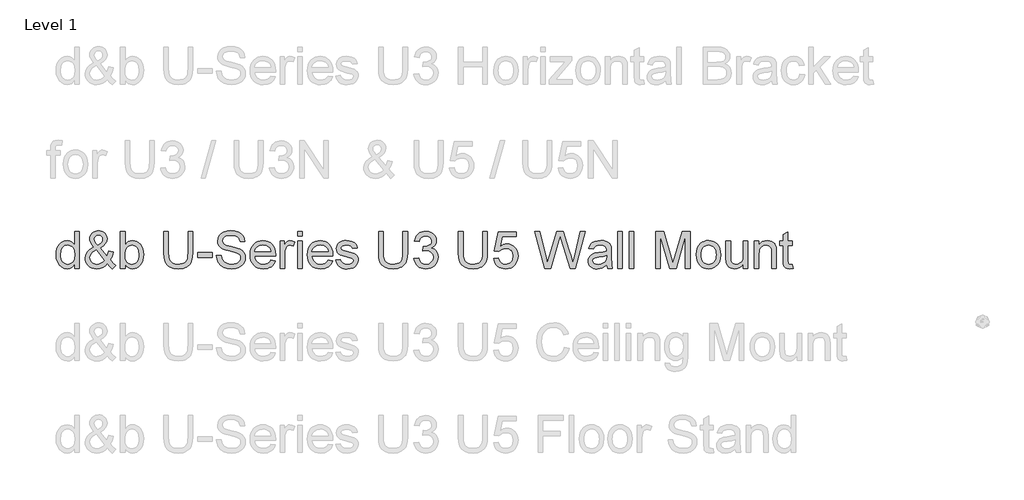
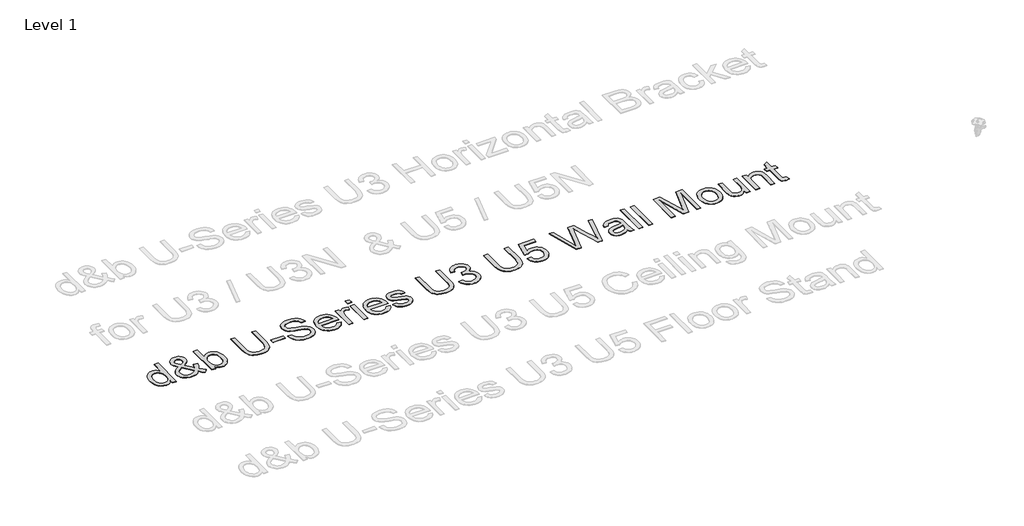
# One storey, part 12 of 29: 1 proxy.
"""IFC4 building model written with IfcOpenShell, lengths in millimetres."""

from ifc_helpers import new_model, si_unit, origin, origin_with_axes, place, context, project, spatial, polyline, outline, extrude, element, save

model = new_model("IFC4")

# Units and contexts
model_context = context("Model", 3, world=origin())
ifc_project = project(units=[si_unit("LENGTHUNIT", "METRE", prefix="MILLI")], contexts=[model_context])

# Site, building, storey
site = spatial("IfcSite", under=ifc_project)
building = spatial("IfcBuilding", under=site)
storey = spatial("IfcBuildingStorey", under=building, Name="Level 1", Elevation=0.0)

# Proxy
placement = place(None, origin())
element("IfcBuildingElementProxy", 1, Name="400mm Arial", ObjectType="400mm Arial", at=placement, inside=storey, context=model_context, shape_type="SweptSolid", body=[
    extrude(outline(polyline([(-20788.4119982, 164.3636615), (-20788.4119982, 211.7468625), (-20803.4399777, 188.2698598), (-20821.6440051, 171.5005722), (-20843.0240804, 161.4389996), (-20867.5802036, 158.0851421), (-20900.051921, 162.9411844), (-20929.7767862, 177.5093115), (-20954.9399147, 200.7717163), (-20973.7264219, 231.7105921), (-20985.4250694, 269.0751401), (-20989.3246185, 311.6145614), (-20985.7316377, 353.6266853), (-20974.9526952, 391.5675817), (-20957.0000539, 423.2790097), (-20931.8859763, 446.6027282), (-20901.5111863, 460.950126), (-20867.7764073, 465.7325919), (-20843.20189, 462.3112894), (-20821.4723268, 452.0473817), (-20803.0537016, 436.3142951), (-20788.4119982, 416.4854555), (-20788.4119982, 566.1889021), (-20738.1838431, 566.1889021), (-20738.1838431, 164.3636615), (-20788.4119982, 164.3636615)]), holes=[polyline([(-20939.0964634, 311.8107652), (-20937.6801177, 287.4539114), (-20933.4310807, 266.3773388), (-20926.3493523, 248.5810472), (-20916.4349325, 234.0650368), (-20891.7377879, 214.7512321), (-20877.8625053, 209.9227809), (-20862.9694159, 208.3132972), (-20848.0058157, 209.8492045), (-20834.2133066, 214.4569265), (-20810.1415614, 232.8878145), (-20800.6348775, 246.7968196), (-20793.844389, 263.9493176), (-20788.4119982, 307.9847924), (-20793.9424909, 356.1282828), (-20800.8556067, 374.663404), (-20810.5339688, 389.5074425), (-20822.235682, 400.8811276), (-20835.2188507, 409.0051883), (-20849.4834751, 413.8796247), (-20865.0295551, 415.5044369), (-20880.2169501, 413.9440041), (-20894.0922327, 409.2627057), (-20906.6554028, 401.4605417), (-20917.9064605, 390.5375121), (-20927.1770868, 376.2544937), (-20933.7989627, 358.372363), (-20939.0964634, 311.8107652)])]), origin_with_axes(), (0.0, 0.0, 1.0), 5.0),
    extrude(outline(polyline([(-20432.4003287, 214.0032054), (-20457.9313392, 189.5390527), (-20485.6696416, 172.0646579), (-20515.664287, 161.5800211), (-20547.9643262, 158.0851421), (-20577.2722584, 160.6725788), (-20603.3918801, 168.4348889), (-20626.3231911, 181.3720724), (-20646.0661915, 199.4841293), (-20658.8991418, 216.8542908), (-20668.0655348, 235.2177338), (-20673.5653707, 254.5744581), (-20675.3986493, 274.9244638), (-20669.5002746, 310.118508), (-20651.8051507, 341.7318341), (-20622.3868538, 369.7399167), (-20581.3189604, 394.1182302), (-20603.2324646, 422.4696693), (-20616.3903773, 444.9349965), (-20622.975465, 464.1139112), (-20625.1704942, 482.6061128), (-20623.4414488, 500.1602153), (-20618.2543127, 516.5248327), (-20609.6090858, 531.699965), (-20597.5057682, 545.6856122), (-20582.784357, 557.4026538), (-20566.2848495, 565.7719692), (-20548.0072457, 570.7935584), (-20527.9515456, 572.4674215), (-20508.8032878, 570.8671348), (-20491.4821772, 566.0662748), (-20475.9882138, 558.0648414), (-20462.3213977, 546.8628346), (-20451.1623105, 533.4167477), (-20443.1915339, 518.6830738), (-20438.409068, 502.6618129), (-20436.8149127, 485.352965), (-20441.5360649, 457.3694079), (-20455.6995218, 431.4950409), (-20479.3052831, 407.729864), (-20512.353349, 386.0738773), (-20439.6598668, 295.5258555), (-20427.2745063, 321.4002225), (-20417.9793545, 351.1496132), (-20367.7511994, 340.2603061), (-20383.2022432, 293.7354965), (-20403.2640747, 257.5604336), (-20374.7164319, 224.2548503), (-20342.6371219, 196.7372771), (-20380.3082382, 158.0851421), (-20405.9373505, 181.5314879), (-20432.4003287, 214.0032054)]), holes=[polyline([(-20537.7617322, 417.7607798), (-20511.4949577, 434.4258341), (-20496.4608468, 448.908122), (-20489.3975125, 462.9980024), (-20487.0430678, 478.4858344), (-20490.1455392, 496.0338056), (-20499.4529537, 510.0255842), (-20513.4202068, 519.1858458), (-20530.5021941, 522.2392664), (-20547.9520634, 519.2103713), (-20562.2381476, 510.123686), (-20571.7662912, 496.6714677), (-20574.9423391, 480.5459736), (-20570.6258571, 462.1518739), (-20557.578309, 441.6976349), (-20537.7617322, 417.7607798)]), polyline([(-20466.0492686, 250.2027937), (-20555.7143735, 362.1370221), (-20589.9641873, 340.2848316), (-20610.8966728, 320.0513218), (-20621.6020389, 300.7252544), (-20625.1704942, 281.5953906), (-20620.2899264, 257.9037901), (-20605.648223, 233.3292729), (-20594.8692805, 222.3847835), (-20582.0547244, 214.5672911), (-20567.2045545, 209.8767957), (-20550.3187709, 208.3132972), (-20527.5959264, 211.2318277), (-20504.1618433, 219.9874192), (-20482.7388484, 233.3783238), (-20466.0492686, 250.2027937)])]), origin_with_axes(), (0.0, 0.0, 1.0), 5.0),
    extrude(outline(polyline([(-20242.1808118, 164.3636615), (-20292.4089668, 164.3636615), (-20292.4089668, 566.1889021), (-20242.1808118, 566.1889021), (-20242.1808118, 417.1721686), (-20225.6629102, 438.4173538), (-20207.011293, 453.5924861), (-20186.2259603, 462.6975655), (-20163.306912, 465.7325919), (-20137.432545, 462.9980024), (-20112.9806551, 454.7942339), (-20091.3491937, 441.6363213), (-20073.9361126, 424.0392992), (-20060.2876906, 402.1748459), (-20049.9502065, 376.2146398), (-20043.4386952, 347.2378013), (-20041.2681915, 316.323451), (-20043.5153373, 280.6511602), (-20050.2567749, 249.270826), (-20061.4925041, 222.1824484), (-20077.2225251, 199.3860274), (-20096.1040685, 181.3168901), (-20116.7943651, 168.4103634), (-20139.2934148, 160.6664474), (-20163.6012176, 158.0851421), (-20187.274424, 161.4144742), (-20208.2620918, 171.4024703), (-20226.5642211, 188.0491306), (-20242.1808118, 211.354455), (-20242.1808118, 164.3636615)]), holes=[polyline([(-20242.1808118, 313.9690062), (-20238.7472465, 272.0795097), (-20228.4465506, 243.7280706), (-20216.2757879, 228.2341072), (-20202.1307252, 217.1669905), (-20186.0113625, 210.5267205), (-20167.9176997, 208.3132972), (-20152.8958515, 209.9442407), (-20138.9285984, 214.8370712), (-20126.0159404, 222.9917888), (-20114.1578774, 234.4083934), (-20104.2434577, 249.0562281), (-20097.1617293, 266.9046363), (-20092.9126922, 287.9536178), (-20091.4963465, 312.2031726), (-20096.9287373, 358.1638965), (-20103.7192258, 375.9571224), (-20113.2259097, 390.2922575), (-20124.6578427, 401.322586), (-20137.2240785, 409.201392), (-20150.9246172, 413.9286757), (-20165.7594586, 415.5044369), (-20180.7813068, 413.8734934), (-20194.7485599, 408.9806628), (-20207.6612179, 400.8259453), (-20219.5192809, 389.4093407), (-20229.4337006, 374.9086587), (-20236.515429, 357.501709), (-20240.7644661, 337.1884915), (-20242.1808118, 313.9690062)])]), origin_with_axes(), (0.0, 0.0, 1.0), 5.0),
    extrude(outline(polyline([(-19557.8221989, 566.1889021), (-19507.5940438, 566.1889021), (-19507.5940438, 334.3741942), (-19511.0030836, 280.0870744), (-19521.2302031, 238.2834171), (-19529.4155775, 221.3301884), (-19540.3355414, 206.0324288), (-19570.3792376, 180.4033165), (-19589.5213641, 170.6391152), (-19611.4348683, 163.6646857), (-19663.5760097, 158.0851421), (-19714.576717, 162.9411844), (-19755.3503048, 177.5093115), (-19771.9049946, 188.3097137), (-19785.9090359, 201.2867511), (-19797.3624287, 216.4404236), (-19806.2651729, 233.7707312), (-19817.706303, 277.3402222), (-19821.520013, 334.3741942), (-19821.520013, 566.1889021), (-19771.2918579, 566.1889021), (-19771.2918579, 336.1400278), (-19768.8147858, 291.000907), (-19761.3835695, 259.5715218), (-19747.9190885, 237.8051705), (-19727.3422222, 221.6551509), (-19700.5113621, 211.6487606), (-19668.2848993, 208.3132972), (-19640.6017791, 209.9626348), (-19617.1983529, 214.9106476), (-19598.0746205, 223.1573357), (-19583.230582, 234.702699), (-19572.1144144, 250.9385577), (-19564.1742947, 273.2567321), (-19559.4102228, 301.6572221), (-19557.8221989, 336.1400278), (-19557.8221989, 566.1889021)])), origin_with_axes(), (0.0, 0.0, 1.0), 5.0),
    extrude(outline(polyline([(-19451.0873693, 283.6555298), (-19451.0873693, 333.8836849), (-19294.1243847, 333.8836849), (-19294.1243847, 283.6555298), (-19451.0873693, 283.6555298)])), origin_with_axes(), (0.0, 0.0, 1.0), 5.0),
    extrude(outline(polyline([(-19250.174749, 302.4910879), (-19199.946594, 302.4910879), (-19194.1831094, 274.6178954), (-19183.7597862, 252.2138819), (-19167.499402, 234.4329188), (-19144.2247344, 220.4288776), (-19115.7751935, 211.3421923), (-19083.9901891, 208.3132972), (-19056.006632, 210.6064283), (-19031.5056911, 217.4858216), (-19011.6523261, 228.3751287), (-18997.6114966, 242.698001), (-18989.2605753, 259.1423262), (-18986.4769349, 276.3959918), (-18988.5615995, 293.2081989), (-18994.8155934, 307.7395377), (-19007.519785, 320.137161), (-19028.9550426, 330.5482214), (-19102.0899832, 349.7271361), (-19150.0985836, 362.419065), (-19180.8167302, 374.4978571), (-19205.8204431, 391.3959034), (-19223.5400926, 411.8746678), (-19234.0983058, 435.4926919), (-19237.6177103, 461.8085173), (-19233.26444, 491.2268142), (-19220.2046292, 518.6585483), (-19198.7816343, 541.9086904), (-19169.338812, 558.7822113), (-19133.997615, 569.0461189), (-19094.8794961, 572.4674215), (-19052.4994903, 568.8867034), (-19015.4169852, 558.1445491), (-18984.956356, 540.4616879), (-18962.4419779, 516.0588489), (-18948.1926819, 486.456611), (-18942.5272992, 453.1755532), (-18992.7554543, 453.1755532), (-19001.9770296, 483.145673), (-19010.3402136, 495.003736), (-19021.2049952, 504.7771344), (-19051.2486915, 517.8737334), (-19092.9174588, 522.2392664), (-19135.5672448, 517.9227843), (-19151.8705486, 512.5271817), (-19164.8261262, 504.9733381), (-19181.7486979, 485.9170507), (-19187.3895552, 463.2800453), (-19183.3919042, 443.9785033), (-19171.3989511, 428.4538831), (-19143.047512, 414.5724691), (-19089.3857917, 400.3967496), (-19034.0072887, 386.9322686), (-19000.5055016, 375.1845702), (-18971.8720197, 356.9621487), (-18951.8960273, 334.4722961), (-18940.1605917, 307.9602669), (-18936.2487798, 277.671316), (-18940.7492029, 246.7079147), (-18954.2504721, 217.5839235), (-18976.2007645, 192.5188969), (-19006.048257, 173.7323896), (-19041.941277, 161.996954), (-19082.0281518, 158.0851421), (-19131.2385, 162.3035223), (-19171.7423077, 174.958663), (-19204.0055586, 196.0996149), (-19228.4942368, 225.7754292), (-19244.2150607, 261.9259666), (-19250.174749, 302.4910879)])), origin_with_axes(), (0.0, 0.0, 1.0), 5.0),
    extrude(outline(polyline([(-18660.5825381, 252.2629329), (-18611.3354017, 245.9844135), (-18618.8861796, 226.2598072), (-18629.0795766, 208.8773829), (-18641.9155925, 193.8371407), (-18657.3942275, 181.1390805), (-18675.3560659, 171.0529824), (-18695.6416922, 163.8486267), (-18743.1843087, 158.0851421), (-18774.3500451, 160.5714113), (-18802.1190044, 168.0302187), (-18826.4911866, 180.4615645), (-18847.4665916, 197.8654485), (-18864.3339811, 219.7574929), (-18876.3821165, 245.6533197), (-18883.6109977, 275.5529288), (-18886.0206247, 309.4563204), (-18883.5864722, 344.5093432), (-18876.2840146, 375.4052994), (-18864.1132519, 402.1441891), (-18847.0741842, 424.7260122), (-18826.1539614, 442.6663908), (-18802.3397336, 455.480947), (-18775.6315007, 463.1696807), (-18746.0292628, 465.7325919), (-18717.3804525, 463.1758121), (-18691.472363, 455.5054725), (-18668.3049943, 442.7215731), (-18647.8783465, 424.8241141), (-18631.2040951, 402.2913419), (-18619.2939155, 375.6015031), (-18612.1478077, 344.7545978), (-18609.7657718, 309.750626), (-18610.0600774, 296.2125686), (-18835.7924697, 296.2125686), (-18832.8831362, 276.1691312), (-18827.0981918, 258.6150287), (-18818.4376365, 243.550261), (-18806.9014703, 230.9748281), (-18793.1273553, 221.0604083), (-18777.7529536, 213.9786799), (-18742.2032901, 208.3132972), (-18715.4705318, 210.9375221), (-18692.9561537, 218.8101968), (-18674.6601558, 232.4218306), (-18660.5825381, 252.2629329)]), holes=[polyline([(-18835.7924697, 346.4407236), (-18659.9939269, 346.4407236), (-18666.7874811, 372.9772782), (-18680.1048093, 391.9599892), (-18693.8022823, 402.260685), (-18709.3882161, 409.6183249), (-18726.8626109, 414.0329089), (-18746.2254666, 415.5044369), (-18780.0828729, 410.8078101), (-18808.0786927, 396.7179296), (-18827.5396502, 374.7553745), (-18835.7924697, 346.4407236)])]), origin_with_axes(), (0.0, 0.0, 1.0), 5.0),
    extrude(outline(polyline([(-18559.5376168, 164.3636615), (-18559.5376168, 459.4540726), (-18515.5879811, 459.4540726), (-18515.5879811, 415.7987425), (-18499.3521223, 441.1090237), (-18484.3915879, 456.0205073), (-18469.3820025, 463.3045708), (-18452.998991, 465.7325919), (-18427.9830153, 461.8575683), (-18402.5746321, 450.2324972), (-18419.3500511, 405.203741), (-18437.0083869, 412.9292629), (-18454.6667227, 415.5044369), (-18469.6640453, 413.0273648), (-18483.0672127, 405.5961485), (-18493.8952061, 393.7748737), (-18501.1670069, 378.1276262), (-18507.273848, 350.0704927), (-18509.3094617, 319.4627107), (-18509.3094617, 164.3636615), (-18559.5376168, 164.3636615)])), origin_with_axes(), (0.0, 0.0, 1.0), 5.0),
    extrude(outline(polyline([(-18371.1820352, 515.960747), (-18371.1820352, 566.1889021), (-18320.9538802, 566.1889021), (-18320.9538802, 515.960747), (-18371.1820352, 515.960747)])), origin_with_axes(), (0.0, 0.0, 1.0), 5.0),
    extrude(outline(polyline([(-18371.1820352, 164.3636615), (-18371.1820352, 459.4540726), (-18320.9538802, 459.4540726), (-18320.9538802, 164.3636615), (-18371.1820352, 164.3636615)])), origin_with_axes(), (0.0, 0.0, 1.0), 5.0),
    extrude(outline(polyline([(-18039.009119, 252.2629329), (-17989.7619826, 245.9844135), (-17997.3127606, 226.2598072), (-18007.5061575, 208.8773829), (-18020.3421735, 193.8371407), (-18035.8208084, 181.1390805), (-18053.7826468, 171.0529824), (-18074.0682732, 163.8486267), (-18121.6108897, 158.0851421), (-18152.7766261, 160.5714113), (-18180.5455853, 168.0302187), (-18204.9177675, 180.4615645), (-18225.8931726, 197.8654485), (-18242.7605621, 219.7574929), (-18254.8086974, 245.6533197), (-18262.0375786, 275.5529288), (-18264.4472057, 309.4563204), (-18262.0130532, 344.5093432), (-18254.7105956, 375.4052994), (-18242.5398329, 402.1441891), (-18225.5007651, 424.7260122), (-18204.5805423, 442.6663908), (-18180.7663145, 455.480947), (-18154.0580817, 463.1696807), (-18124.4558438, 465.7325919), (-18095.8070334, 463.1758121), (-18069.8989439, 455.5054725), (-18046.7315753, 442.7215731), (-18026.3049275, 424.8241141), (-18009.630676, 402.2913419), (-17997.7204965, 375.6015031), (-17990.5743887, 344.7545978), (-17988.1923528, 309.750626), (-17988.4866584, 296.2125686), (-18214.2190506, 296.2125686), (-18211.3097172, 276.1691312), (-18205.5247728, 258.6150287), (-18196.8642175, 243.550261), (-18185.3280513, 230.9748281), (-18171.5539362, 221.0604083), (-18156.1795345, 213.9786799), (-18120.629871, 208.3132972), (-18093.8971127, 210.9375221), (-18071.3827346, 218.8101968), (-18053.0867367, 232.4218306), (-18039.009119, 252.2629329)]), holes=[polyline([(-18214.2190506, 346.4407236), (-18038.4205079, 346.4407236), (-18045.214062, 372.9772782), (-18058.5313903, 391.9599892), (-18072.2288632, 402.260685), (-18087.8147971, 409.6183249), (-18105.2891918, 414.0329089), (-18124.6520475, 415.5044369), (-18158.5094538, 410.8078101), (-18186.5052736, 396.7179296), (-18205.9662312, 374.7553745), (-18214.2190506, 346.4407236)])]), origin_with_axes(), (0.0, 0.0, 1.0), 5.0),
    extrude(outline(polyline([(-17956.7997559, 252.2629329), (-17906.5716008, 258.5414523), (-17898.6498752, 237.0571437), (-17883.3214587, 221.2627434), (-17860.4882495, 211.5506587), (-17830.0521458, 208.3132972), (-17799.983924, 211.2808786), (-17778.8429721, 220.1836229), (-17766.3349842, 233.0840182), (-17762.1656549, 248.0445527), (-17766.3595097, 260.8468461), (-17778.9410739, 270.6079817), (-17830.640757, 284.930854), (-17906.2772952, 309.5053713), (-17925.4194217, 321.8539436), (-17939.2885729, 338.2001669), (-17947.7130706, 357.501709), (-17950.5212365, 378.7162373), (-17948.2648936, 398.1771949), (-17941.4958649, 416.142099), (-17930.827287, 431.8997111), (-17916.8722966, 444.7387927), (-17884.9401395, 459.6012254), (-17864.0567049, 464.1997503), (-17841.7262678, 465.7325919), (-17809.0338211, 463.2677826), (-17780.6088056, 455.8733545), (-17757.751071, 444.2728089), (-17741.7604669, 429.1896471), (-17731.1654655, 409.5079603), (-17724.4945386, 384.1118399), (-17774.7226937, 377.8333206), (-17781.0625268, 393.6399836), (-17793.6073028, 405.5470975), (-17812.4796492, 413.015102), (-17837.8021932, 415.5044369), (-17866.6441416, 413.1254666), (-17885.8721072, 405.9885559), (-17896.6878378, 395.6878601), (-17900.2930814, 383.8175343), (-17894.3088676, 369.2003564), (-17875.5714113, 358.1148456), (-17832.3084887, 347.4217423), (-17758.5849369, 323.7791927), (-17739.1117166, 312.4729527), (-17724.3473858, 296.9973835), (-17715.0399714, 277.303434), (-17711.9374999, 253.3420534), (-17715.5795316, 228.5713324), (-17726.5056269, 205.2721394), (-17744.2988527, 185.2716215), (-17768.5422762, 170.3969262), (-17797.825683, 161.1630881), (-17830.7388588, 158.0851421), (-17857.7720541, 159.5689328), (-17881.3839468, 164.020305), (-17901.574537, 171.4392585), (-17918.3438246, 181.8257935), (-17932.0412976, 195.130859), (-17943.0164438, 211.3054041), (-17951.2692632, 230.3494287), (-17956.7997559, 252.2629329)])), origin_with_axes(), (0.0, 0.0, 1.0), 5.0),
    extrude(outline(polyline([(-17228.4915073, 566.1889021), (-17178.2633522, 566.1889021), (-17178.2633522, 334.3741942), (-17181.672392, 280.0870744), (-17191.8995115, 238.2834171), (-17200.0848859, 221.3301884), (-17211.0048498, 206.0324288), (-17241.048546, 180.4033165), (-17260.1906725, 170.6391152), (-17282.1041767, 163.6646857), (-17334.2453182, 158.0851421), (-17385.2460254, 162.9411844), (-17426.0196132, 177.5093115), (-17442.574303, 188.3097137), (-17456.5783443, 201.2867511), (-17468.0317371, 216.4404236), (-17476.9344814, 233.7707312), (-17488.3756114, 277.3402222), (-17492.1893214, 334.3741942), (-17492.1893214, 566.1889021), (-17441.9611663, 566.1889021), (-17441.9611663, 336.1400278), (-17439.4840942, 291.000907), (-17432.0528779, 259.5715218), (-17418.5883969, 237.8051705), (-17398.0115307, 221.6551509), (-17371.1806705, 211.6487606), (-17338.9542077, 208.3132972), (-17311.2710876, 209.9626348), (-17287.8676613, 214.9106476), (-17268.7439289, 223.1573357), (-17253.8998904, 234.702699), (-17242.7837228, 250.9385577), (-17234.8436031, 273.2567321), (-17230.0795312, 301.6572221), (-17228.4915073, 336.1400278), (-17228.4915073, 566.1889021)])), origin_with_axes(), (0.0, 0.0, 1.0), 5.0),
    extrude(outline(polyline([(-17109.199639, 271.098491), (-17058.9714839, 277.3770104), (-17047.7265576, 245.8127352), (-17031.2577069, 224.500105), (-17008.7555916, 212.3599991), (-16979.4108711, 208.3132972), (-16944.9771163, 213.880578), (-16930.7032949, 220.8396791), (-16918.3915108, 230.5824206), (-16901.3953626, 255.5002944), (-16895.7299799, 285.715669), (-16901.3463117, 314.3982019), (-16918.1953071, 337.6606067), (-16943.7017921, 353.0748623), (-16975.2905927, 358.2129475), (-17010.5091624, 352.719243), (-17004.9173561, 402.9473981), (-16996.8730031, 402.3587869), (-16966.7802559, 405.9640305), (-16939.8758193, 416.7797611), (-16928.8025713, 424.9590041), (-16920.8931084, 435.075759), (-16916.1474306, 447.1300257), (-16914.5655381, 461.1218043), (-16919.1518003, 482.8145792), (-16932.9105869, 500.4116014), (-16953.9043861, 512.0734606), (-16980.195686, 515.960747), (-17006.5360369, 512.0366724), (-17028.0693963, 500.2644486), (-17043.7902202, 480.6440755), (-17052.6929645, 453.1755532), (-17102.9211196, 459.4540726), (-17096.9675626, 483.4338473), (-17088.1322634, 504.5564052), (-17076.4152218, 522.8217462), (-17061.816438, 538.2298705), (-17044.7957643, 550.4619468), (-17025.8130534, 559.1991442), (-17004.8683051, 564.4414626), (-16981.9615196, 566.1889021), (-16950.3849817, 562.7430741), (-16921.3836177, 552.40559), (-16896.9317278, 536.0961549), (-16879.0036119, 514.7344737), (-16868.0039402, 490.1231682), (-16864.337383, 464.0648602), (-16867.8199992, 439.7846485), (-16878.2678479, 417.7607798), (-16895.5337762, 398.998798), (-16919.4706313, 384.5042474), (-16888.0289835, 371.8000558), (-16864.7297904, 350.1685945), (-16850.3088162, 320.7870858), (-16845.5018248, 284.8327522), (-16847.9053205, 259.3507926), (-16855.1158076, 235.8799214), (-16867.1332861, 214.4201383), (-16883.9577561, 194.9714435), (-16904.4549146, 178.8336866), (-16927.4904588, 167.3067175), (-16953.0643889, 160.3905359), (-16981.1767046, 158.0851421), (-17006.5850878, 160.0533108), (-17029.737128, 165.9578168), (-17050.6328253, 175.7986602), (-17069.2721798, 189.5758409), (-17084.9010332, 206.4800186), (-17096.7652275, 225.7018528), (-17104.8647628, 247.2413436), (-17109.199639, 271.098491)])), origin_with_axes(), (0.0, 0.0, 1.0), 5.0),
    extrude(outline(polyline([(-16362.0558322, 566.1889021), (-16311.8276772, 566.1889021), (-16311.8276772, 334.3741942), (-16315.236717, 280.0870744), (-16325.4638364, 238.2834171), (-16333.6492108, 221.3301884), (-16344.5691747, 206.0324288), (-16374.612871, 180.4033165), (-16393.7549975, 170.6391152), (-16415.6685017, 163.6646857), (-16467.8096431, 158.0851421), (-16518.8103504, 162.9411844), (-16559.5839382, 177.5093115), (-16576.138628, 188.3097137), (-16590.1426692, 201.2867511), (-16601.596062, 216.4404236), (-16610.4988063, 233.7707312), (-16621.9399364, 277.3402222), (-16625.7536464, 334.3741942), (-16625.7536464, 566.1889021), (-16575.5254913, 566.1889021), (-16575.5254913, 336.1400278), (-16573.0484192, 291.000907), (-16565.6172029, 259.5715218), (-16552.1527219, 237.8051705), (-16531.5758556, 221.6551509), (-16504.7449954, 211.6487606), (-16472.5185327, 208.3132972), (-16444.8354125, 209.9626348), (-16421.4319863, 214.9106476), (-16402.3082539, 223.1573357), (-16387.4642154, 234.702699), (-16376.3480477, 250.9385577), (-16368.407928, 273.2567321), (-16363.6438562, 301.6572221), (-16362.0558322, 336.1400278), (-16362.0558322, 566.1889021)])), origin_with_axes(), (0.0, 0.0, 1.0), 5.0),
    extrude(outline(polyline([(-16242.7639639, 271.098491), (-16192.5358089, 277.3770104), (-16183.3142335, 247.2229495), (-16167.2255276, 225.6282764), (-16144.3432675, 212.642042), (-16114.7410296, 208.3132972), (-16095.6111659, 209.8185477), (-16078.737645, 214.3342992), (-16064.1204671, 221.8605517), (-16051.759632, 232.3973051), (-16041.9310514, 245.4233934), (-16034.9106367, 260.4176504), (-16029.2943049, 296.3106704), (-16034.5550174, 330.1067631), (-16041.1309081, 344.0249652), (-16050.337155, 355.9566046), (-16062.204415, 365.5276678), (-16076.763345, 372.3641416), (-16113.9562147, 377.8333206), (-16138.3222655, 375.6505541), (-16158.0530032, 369.1022545), (-16173.8106153, 359.0713388), (-16186.2572895, 346.4407236), (-16236.4854445, 352.719243), (-16192.5358089, 559.9103827), (-15997.9017079, 559.9103827), (-15997.9017079, 509.6822276), (-16151.9216366, 509.6822276), (-16173.504047, 399.0233235), (-16155.7782662, 411.727515), (-16137.6232897, 420.8019376), (-16119.0391176, 426.2465911), (-16100.0257498, 428.0614756), (-16075.5615971, 425.8112641), (-16053.0840072, 419.0606295), (-16032.5929801, 407.8095718), (-16014.0885157, 392.058091), (-15998.7662306, 372.7688118), (-15987.8217413, 350.9043585), (-15981.2550477, 326.4647313), (-15979.0661498, 299.4499301), (-15981.0343185, 273.4284103), (-15986.9388245, 249.221775), (-15996.7796679, 226.8300243), (-16010.5568486, 206.253158), (-16031.4280204, 185.1796511), (-16055.7818085, 170.1271461), (-16083.6182128, 161.0956431), (-16114.9372333, 158.0851421), (-16140.8575856, 160.0195883), (-16164.2702089, 165.8229267), (-16185.1751033, 175.4951575), (-16203.5722687, 189.0362806), (-16218.8792254, 205.7718457), (-16230.5134935, 225.0274025), (-16238.475073, 246.8029509), (-16242.7639639, 271.098491)])), origin_with_axes(), (0.0, 0.0, 1.0), 5.0),
    extrude(outline(polyline([(-15687.409304, 164.3636615), (-15796.9890876, 566.1889021), (-15745.1913027, 566.1889021), (-15681.621294, 302.0986805), (-15662.0009209, 220.5760304), (-15641.0071217, 292.6809014), (-15561.348407, 566.1889021), (-15486.6928874, 566.1889021), (-15428.8127869, 367.9250322), (-15404.0175404, 294.3486331), (-15385.746068, 220.5760304), (-15366.7143061, 299.7442357), (-15302.653788, 566.1889021), (-15250.7579012, 566.1889021), (-15360.239583, 164.3636615), (-15413.9994052, 164.3636615), (-15510.4335389, 474.3655561), (-15523.8734944, 517.6284787), (-15538.9811817, 465.5363882), (-15626.7823512, 164.3636615), (-15687.409304, 164.3636615)])), origin_with_axes(), (0.0, 0.0, 1.0), 5.0),
    extrude(outline(polyline([(-15018.452684, 202.0347778), (-15042.4508528, 181.4579115), (-15067.1602601, 167.9934305), (-15093.1449917, 160.5622142), (-15120.9691333, 158.0851421), (-15143.3332929, 159.5750642), (-15162.944469, 164.0448304), (-15179.8026614, 171.4944408), (-15193.9078702, 181.9238954), (-15205.0454976, 194.6710065), (-15213.0009458, 209.0735866), (-15217.7742147, 225.1316357), (-15219.3653043, 242.8451538), (-15216.9618086, 263.6672747), (-15209.7513215, 282.5764093), (-15198.6290225, 298.7632171), (-15184.4900911, 311.4183577), (-15167.8740877, 320.9832896), (-15149.3205724, 327.8994711), (-15105.861446, 335.4533147), (-15054.5051195, 343.3995658), (-15018.7469896, 352.719243), (-15018.452684, 363.9028557), (-15021.9107747, 386.3191319), (-15032.285047, 400.9853608), (-15055.4861382, 411.8746678), (-15087.8107028, 415.5044369), (-15117.7317717, 413.0886784), (-15138.6274691, 405.8414031), (-15152.876765, 392.4382358), (-15162.8586298, 371.5548012), (-15213.0867849, 377.8333206), (-15204.3679816, 405.3018429), (-15191.3572217, 426.8842532), (-15172.8404946, 443.3898921), (-15147.6037898, 455.6280998), (-15116.7384904, 463.2064689), (-15081.3359797, 465.7325919), (-15047.3804715, 463.5007745), (-15020.4637722, 456.8053222), (-15000.1689488, 446.7376183), (-14986.0790684, 434.389046), (-14976.7348657, 419.1219432), (-14970.6770755, 400.2986477), (-14968.2245289, 356.349012), (-14968.2245289, 293.8581238), (-14965.6738804, 206.5965145), (-14955.6674901, 164.3636615), (-15005.8956452, 164.3636615), (-15013.9399982, 181.8257935), (-15018.452684, 202.0347778)]), holes=[polyline([(-15018.452684, 302.4910879), (-15052.1997257, 294.1279039), (-15099.4848248, 287.0890951), (-15142.6986965, 278.9466403), (-15153.9436228, 273.3793594), (-15162.2700186, 265.7028884), (-15167.4203666, 256.5058385), (-15169.1371492, 246.3768209), (-15165.3970156, 231.4408119), (-15154.1766147, 219.2026042), (-15135.7212013, 211.0356239), (-15110.27603, 208.3132972), (-15083.298017, 211.3176668), (-15059.4592637, 220.3307757), (-15040.1331962, 233.6113157), (-15026.6932407, 249.4179788), (-15020.7335524, 265.7028884), (-15018.7469896, 288.2663175), (-15018.452684, 302.4910879)])]), origin_with_axes(), (0.0, 0.0, 1.0), 5.0),
    extrude(outline(polyline([(-14899.1608157, 164.3636615), (-14899.1608157, 566.1889021), (-14848.9326606, 566.1889021), (-14848.9326606, 164.3636615), (-14899.1608157, 164.3636615)])), origin_with_axes(), (0.0, 0.0, 1.0), 5.0),
    extrude(outline(polyline([(-14773.590428, 164.3636615), (-14773.590428, 566.1889021), (-14723.3622729, 566.1889021), (-14723.3622729, 164.3636615), (-14773.590428, 164.3636615)])), origin_with_axes(), (0.0, 0.0, 1.0), 5.0),
    extrude(outline(polyline([(-14484.7785363, 164.3636615), (-14484.7785363, 566.1889021), (-14398.6450985, 566.1889021), (-14316.2395316, 282.9688167), (-14299.5622145, 223.8133919), (-14281.6095731, 287.87391), (-14200.773636, 566.1889021), (-14114.3458926, 566.1889021), (-14114.3458926, 164.3636615), (-14164.5740477, 164.3636615), (-14164.5740477, 515.960747), (-14265.5208672, 164.3636615), (-14333.5054599, 164.3636615), (-14434.5503812, 515.960747), (-14434.5503812, 164.3636615), (-14484.7785363, 164.3636615)])), origin_with_axes(), (0.0, 0.0, 1.0), 5.0),
    extrude(outline(polyline([(-14045.2821794, 311.908867), (-14042.565984, 350.125675), (-14034.4173978, 383.0572449), (-14020.8364208, 410.7035768), (-14001.823053, 433.0646708), (-13982.6809266, 447.3568863), (-13961.5522373, 457.5656116), (-13938.4369853, 463.6908469), (-13913.3351705, 465.7325919), (-13885.6244592, 463.2463228), (-13860.5686296, 455.7875153), (-13838.1676818, 443.3561696), (-13818.4216157, 425.9522855), (-13802.3053186, 404.1644744), (-13790.7936779, 378.5813473), (-13783.8866934, 349.2029043), (-13781.5843653, 316.0291454), (-13785.6555927, 265.2859555), (-13797.8692749, 226.658346), (-13817.8697927, 197.7305585), (-13845.3015268, 176.0868344), (-13877.8836089, 162.5855652), (-13913.3351705, 158.0851421), (-13941.450552, 160.5622142), (-13966.7393734, 167.9934305), (-13989.2016349, 180.378791), (-14008.8373364, 197.7182957), (-14024.7819552, 219.717639), (-14036.1709687, 246.0825154), (-14043.0043767, 276.8129247), (-14045.2821794, 311.908867)]), holes=[polyline([(-13995.0540243, 312.0069689), (-13993.6008905, 287.6439838), (-13989.2414888, 266.549017), (-13981.9758194, 248.7220687), (-13971.8038822, 234.1631387), (-13959.4307845, 222.853833), (-13945.5616332, 214.7757576), (-13930.1964286, 209.9289123), (-13913.3351705, 208.3132972), (-13896.5597515, 209.9381093), (-13881.2558605, 214.8125458), (-13867.4234975, 222.9366065), (-13855.0626624, 234.3102915), (-13844.8907253, 249.0133086), (-13837.6250559, 267.1253655), (-13833.2656542, 288.6464622), (-13831.8125203, 313.5765987), (-13833.2748513, 337.1670317), (-13837.6618441, 357.7101754), (-13844.9734987, 375.20603), (-13855.2098152, 389.6545953), (-13867.6166355, 400.963901), (-13881.4398015, 409.0419765), (-13896.6793131, 413.8888218), (-13913.3351705, 415.5044369), (-13930.1964286, 413.8949531), (-13945.5616332, 409.0665019), (-13959.4307845, 401.0190833), (-13971.8038822, 389.7526972), (-13981.9758194, 375.2366868), (-13989.2414888, 357.4403953), (-13993.6008905, 336.3638227), (-13995.0540243, 312.0069689)])]), origin_with_axes(), (0.0, 0.0, 1.0), 5.0),
    extrude(outline(polyline([(-13536.7221093, 164.3636615), (-13536.7221093, 215.0823259), (-13554.8954798, 190.146058), (-13576.0609573, 172.3344381), (-13600.2185416, 161.6474661), (-13627.3682329, 158.0851421), (-13651.8323856, 160.5867397), (-13674.6042811, 168.0915324), (-13693.7096194, 179.3732469), (-13707.1741004, 193.2056099), (-13716.2362602, 210.0055544), (-13722.1346348, 230.1900132), (-13725.0776908, 276.8865011), (-13725.0776908, 459.4540726), (-13674.8495357, 459.4540726), (-13674.8495357, 300.5290506), (-13671.8083779, 249.3198769), (-13664.4875262, 232.2378896), (-13651.9427502, 219.2516552), (-13635.0079157, 211.0478867), (-13614.5168885, 208.3132972), (-13592.848639, 211.1092003), (-13572.5783411, 219.4969098), (-13555.8642358, 232.7038735), (-13544.8645641, 249.957539), (-13538.757723, 273.5878259), (-13536.7221093, 305.9246532), (-13536.7221093, 459.4540726), (-13486.4939542, 459.4540726), (-13486.4939542, 164.3636615), (-13536.7221093, 164.3636615)])), origin_with_axes(), (0.0, 0.0, 1.0), 5.0),
    extrude(outline(polyline([(-13417.430241, 164.3636615), (-13417.430241, 459.4540726), (-13367.2020859, 459.4540726), (-13367.2020859, 418.2512891), (-13349.7522166, 439.0243591), (-13328.7952056, 453.8622662), (-13304.3310529, 462.7650105), (-13276.3597586, 465.7325919), (-13251.6013003, 463.341359), (-13228.9275066, 456.1676601), (-13210.0183721, 445.1066747), (-13196.5538911, 431.0535825), (-13187.4181549, 414.0451716), (-13181.4952547, 394.1182302), (-13178.8465044, 345.5578068), (-13178.8465044, 164.3636615), (-13229.0746594, 164.3636615), (-13229.0746594, 338.7887781), (-13230.521662, 364.761247), (-13234.8626695, 383.2289232), (-13242.8702343, 396.4604122), (-13255.3169084, 406.7243199), (-13271.2707243, 413.3094076), (-13289.7997141, 415.5044369), (-13319.218011, 410.5748181), (-13344.2953003, 395.7859619), (-13354.317019, 383.7133011), (-13361.4753895, 367.2137936), (-13365.7704118, 346.2874395), (-13367.2020859, 320.9342386), (-13367.2020859, 164.3636615), (-13417.430241, 164.3636615)])), origin_with_axes(), (0.0, 0.0, 1.0), 5.0),
    extrude(outline(polyline([(-13003.0479616, 206.253158), (-12996.7694422, 162.8921335), (-13034.3424567, 158.0851421), (-13058.4509901, 160.1698067), (-13076.4281569, 166.4238007), (-13089.1323485, 176.0623089), (-13097.4219561, 188.3005166), (-13101.9836928, 209.3188413), (-13103.5042718, 245.2977004), (-13103.5042718, 409.2259175), (-13141.1753881, 409.2259175), (-13141.1753881, 459.4540726), (-13103.5042718, 459.4540726), (-13103.5042718, 531.1665361), (-13053.2761167, 560.6951976), (-13053.2761167, 459.4540726), (-13003.0479616, 459.4540726), (-13003.0479616, 409.2259175), (-13053.2761167, 409.2259175), (-13053.2761167, 246.7692284), (-13050.6273663, 220.8703359), (-13042.0434531, 211.6978115), (-13024.9246776, 208.3132972), (-13003.0479616, 206.253158)])), origin_with_axes(), (0.0, 0.0, 1.0), 5.0),
])

save(model, "model.ifc")
